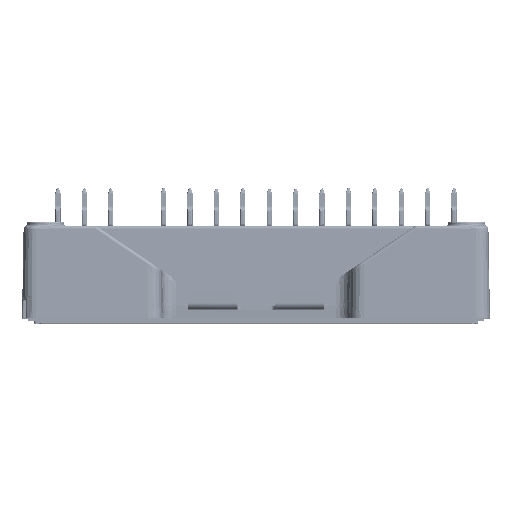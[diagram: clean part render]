
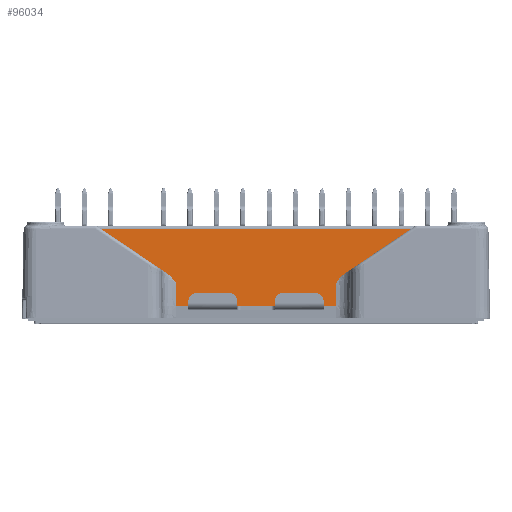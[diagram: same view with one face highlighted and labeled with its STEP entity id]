
A CAD part, top view. The second image highlights one B-rep face of the part: STEP entity #96034.
In plain terms, the highlighted planar face has unit normal (0, 0.018, 1).
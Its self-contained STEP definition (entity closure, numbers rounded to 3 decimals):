
#994 = PLANE ( 'NONE',  #140883 ) ;
#1545 = DIRECTION ( 'NONE',  ( -1., 0., 0. ) ) ;
#1884 = FACE_OUTER_BOUND ( 'NONE', #64743, .T. ) ;
#2725 = CARTESIAN_POINT ( 'NONE',  ( 18.767, 11.437, 20.311 ) ) ;
#5943 = DIRECTION ( 'NONE',  ( 1., 0., 0. ) ) ;
#9080 = VERTEX_POINT ( 'NONE', #174019 ) ;
#10086 = LINE ( 'NONE', #113213, #173116 ) ;
#10659 = CARTESIAN_POINT ( 'NONE',  ( -10.679, 5.981, 20.407 ) ) ;
#11577 = CARTESIAN_POINT ( 'NONE',  ( -10.119, 5.443, 20.416 ) ) ;
#12487 = CARTESIAN_POINT ( 'NONE',  ( -10.591, 5.922, 20.408 ) ) ;
#12800 = CARTESIAN_POINT ( 'NONE',  ( 10.092, 5.41, 20.417 ) ) ;
#17238 = EDGE_CURVE ( 'NONE', #175220, #72475, #176835, .T. ) ;
#18063 = ORIENTED_EDGE ( 'NONE', *, *, #28142, .T. ) ;
#19556 = ORIENTED_EDGE ( 'NONE', *, *, #17238, .T. ) ;
#21705 = EDGE_CURVE ( 'NONE', #54640, #150994, #95272, .T. ) ;
#22355 = DIRECTION ( 'NONE',  ( 0.829, 0.559, -0.01 ) ) ;
#22367 = LINE ( 'NONE', #121904, #77764 ) ;
#23412 = VECTOR ( 'NONE', #27028, 1000. ) ;
#23548 = CARTESIAN_POINT ( 'NONE',  ( -10.454, 5.81, 20.41 ) ) ;
#24805 = CARTESIAN_POINT ( 'NONE',  ( 9.75, 4.954, 20.425 ) ) ;
#25149 = CARTESIAN_POINT ( 'NONE',  ( -9.65, 2.05, 20.475 ) ) ;
#25188 = ORIENTED_EDGE ( 'NONE', *, *, #21705, .T. ) ;
#25710 = CARTESIAN_POINT ( 'NONE',  ( 10.01, 5.306, 20.418 ) ) ;
#26349 = CARTESIAN_POINT ( 'NONE',  ( 9.65, 4.812, 20.427 ) ) ;
#27028 = DIRECTION ( 'NONE',  ( 0.829, -0.559, 0.01 ) ) ;
#27545 = DIRECTION ( 'NONE',  ( 1., 0., 0. ) ) ;
#28142 = EDGE_CURVE ( 'NONE', #167251, #39715, #168608, .T. ) ;
#29545 = EDGE_CURVE ( 'NONE', #155772, #54640, #54137, .T. ) ;
#32499 = CARTESIAN_POINT ( 'NONE',  ( 10.679, 5.981, 20.407 ) ) ;
#38555 = EDGE_CURVE ( 'NONE', #39715, #67747, #22367, .T. ) ;
#38592 = CARTESIAN_POINT ( 'NONE',  ( 10.114, 5.437, 20.416 ) ) ;
#39715 = VERTEX_POINT ( 'NONE', #25149 ) ;
#41493 = ORIENTED_EDGE ( 'NONE', *, *, #38555, .T. ) ;
#42233 = CARTESIAN_POINT ( 'NONE',  ( 10.315, 5.682, 20.412 ) ) ;
#42983 = CARTESIAN_POINT ( 'NONE',  ( -11.35, 11.437, 20.311 ) ) ;
#45174 = EDGE_CURVE ( 'NONE', #67747, #95175, #10086, .T. ) ;
#46941 = CARTESIAN_POINT ( 'NONE',  ( 9.65, 499000., -8689.566 ) ) ;
#46960 = VECTOR ( 'NONE', #5943, 1000. ) ;
#47093 = ORIENTED_EDGE ( 'NONE', *, *, #29545, .T. ) ;
#53028 = CARTESIAN_POINT ( 'NONE',  ( -10.007, 5.307, 20.418 ) ) ;
#54137 = LINE ( 'NONE', #42983, #54947 ) ;
#54285 = CARTESIAN_POINT ( 'NONE',  ( 9.884, 5.139, 20.421 ) ) ;
#54640 = VERTEX_POINT ( 'NONE', #75867 ) ;
#54947 = VECTOR ( 'NONE', #1545, 1000. ) ;
#55177 = CARTESIAN_POINT ( 'NONE',  ( 10.113, 5.437, 20.416 ) ) ;
#57181 = CARTESIAN_POINT ( 'NONE',  ( -11.35, 0.63, 20.5 ) ) ;
#58090 = DIRECTION ( 'NONE',  ( 0., 0.017, 1. ) ) ;
#60912 = EDGE_CURVE ( 'NONE', #95175, #9080, #62166, .T. ) ;
#62166 = LINE ( 'NONE', #173724, #46960 ) ;
#63852 = LINE ( 'NONE', #32499, #150070 ) ;
#64743 = EDGE_LOOP ( 'NONE', ( #25188, #179910, #18063, #41493, #158875, #72256, #82781, #19556, #118103, #47093 ) ) ;
#67747 = VERTEX_POINT ( 'NONE', #156956 ) ;
#68708 = CARTESIAN_POINT ( 'NONE',  ( -9.65, 4.812, 20.427 ) ) ;
#69028 = CARTESIAN_POINT ( 'NONE',  ( 10.679, 5.981, 20.407 ) ) ;
#72256 = ORIENTED_EDGE ( 'NONE', *, *, #60912, .T. ) ;
#72475 = VERTEX_POINT ( 'NONE', #142568 ) ;
#75867 = CARTESIAN_POINT ( 'NONE',  ( -18.767, 11.437, 20.311 ) ) ;
#77764 = VECTOR ( 'NONE', #180907, 1000. ) ;
#79707 = CARTESIAN_POINT ( 'NONE',  ( -9.65, 4.812, 20.427 ) ) ;
#79793 = CARTESIAN_POINT ( 'NONE',  ( -10.203, 5.543, 20.414 ) ) ;
#82781 = ORIENTED_EDGE ( 'NONE', *, *, #139159, .T. ) ;
#85562 = CARTESIAN_POINT ( 'NONE',  ( -9.65, 499000., -8689.566 ) ) ;
#95175 = VERTEX_POINT ( 'NONE', #137928 ) ;
#95272 = LINE ( 'NONE', #170762, #23412 ) ;
#96034 = ADVANCED_FACE ( 'NONE', ( #1884 ), #994, .T. ) ;
#97555 = CARTESIAN_POINT ( 'NONE',  ( 10.11, 5.432, 20.416 ) ) ;
#103176 = DIRECTION ( 'NONE',  ( 0., 1., -0.017 ) ) ;
#109250 = CARTESIAN_POINT ( 'NONE',  ( -10.288, 5.639, 20.413 ) ) ;
#113213 = CARTESIAN_POINT ( 'NONE',  ( -11.35, 2.05, 20.475 ) ) ;
#114305 = DIRECTION ( 'NONE',  ( 0., -1., 0.017 ) ) ;
#116141 = EDGE_CURVE ( 'NONE', #150994, #167251, #168043, .T. ) ;
#117030 = LINE ( 'NONE', #46941, #160199 ) ;
#118103 = ORIENTED_EDGE ( 'NONE', *, *, #147019, .T. ) ;
#121904 = CARTESIAN_POINT ( 'NONE',  ( -11.35, 2.05, 20.475 ) ) ;
#124349 = CARTESIAN_POINT ( 'NONE',  ( 10.105, 5.426, 20.416 ) ) ;
#135102 = CARTESIAN_POINT ( 'NONE',  ( -10.16, 5.493, 20.415 ) ) ;
#136038 = CARTESIAN_POINT ( 'NONE',  ( -10.129, 5.456, 20.416 ) ) ;
#137098 = VECTOR ( 'NONE', #155659, 1000. ) ;
#137928 = CARTESIAN_POINT ( 'NONE',  ( 8.2, 2.05, 20.475 ) ) ;
#139159 = EDGE_CURVE ( 'NONE', #9080, #175220, #117030, .T. ) ;
#140883 = AXIS2_PLACEMENT_3D ( 'NONE', #57181, #58090, #114305 ) ;
#142568 = CARTESIAN_POINT ( 'NONE',  ( 10.679, 5.981, 20.407 ) ) ;
#147019 = EDGE_CURVE ( 'NONE', #72475, #155772, #63852, .T. ) ;
#150070 = VECTOR ( 'NONE', #22355, 1000. ) ;
#150994 = VERTEX_POINT ( 'NONE', #164583 ) ;
#152009 = CARTESIAN_POINT ( 'NONE',  ( 9.65, 4.812, 20.427 ) ) ;
#153843 = CARTESIAN_POINT ( 'NONE',  ( 10.502, 5.862, 20.409 ) ) ;
#155659 = DIRECTION ( 'NONE',  ( 0., -1., 0.017 ) ) ;
#155772 = VERTEX_POINT ( 'NONE', #2725 ) ;
#156956 = CARTESIAN_POINT ( 'NONE',  ( -8.2, 2.05, 20.475 ) ) ;
#158875 = ORIENTED_EDGE ( 'NONE', *, *, #45174, .T. ) ;
#160199 = VECTOR ( 'NONE', #103176, 1000. ) ;
#164583 = CARTESIAN_POINT ( 'NONE',  ( -10.679, 5.981, 20.407 ) ) ;
#165530 = CARTESIAN_POINT ( 'NONE',  ( -9.851, 5.097, 20.422 ) ) ;
#166441 = CARTESIAN_POINT ( 'NONE',  ( -10.123, 5.449, 20.416 ) ) ;
#167251 = VERTEX_POINT ( 'NONE', #79707 ) ;
#168043 = B_SPLINE_CURVE_WITH_KNOTS ( 'NONE', 3,
 ( #10659, #12487, #23548, #109250, #79793, #135102, #179346, #136038, #166441, #11577, #53028, #165530, #68708 ),
 .UNSPECIFIED., .F., .F.,
 ( 4, 1, 1, 1, 1, 1, 2, 2, 4 ),
 ( 0., 0.25, 0.375, 0.438, 0.469, 0.484, 0.492, 0.5, 1. ),
 .UNSPECIFIED. ) ;
#168608 = LINE ( 'NONE', #85562, #137098 ) ;
#170762 = CARTESIAN_POINT ( 'NONE',  ( -18.767, 11.437, 20.311 ) ) ;
#173116 = VECTOR ( 'NONE', #27545, 1000. ) ;
#173724 = CARTESIAN_POINT ( 'NONE',  ( -11.35, 2.05, 20.475 ) ) ;
#174019 = CARTESIAN_POINT ( 'NONE',  ( 9.65, 2.05, 20.475 ) ) ;
#175220 = VERTEX_POINT ( 'NONE', #26349 ) ;
#176835 = B_SPLINE_CURVE_WITH_KNOTS ( 'NONE', 3,
 ( #152009, #24805, #54285, #25710, #181497, #12800, #124349, #97555, #55177, #38592, #42233, #153843, #69028 ),
 .UNSPECIFIED., .F., .F.,
 ( 4, 1, 1, 1, 1, 1, 2, 2, 4 ),
 ( 0., 0.25, 0.375, 0.437, 0.469, 0.484, 0.492, 0.5, 1. ),
 .UNSPECIFIED. ) ;
#179346 = CARTESIAN_POINT ( 'NONE',  ( -10.139, 5.467, 20.416 ) ) ;
#179910 = ORIENTED_EDGE ( 'NONE', *, *, #116141, .T. ) ;
#180907 = DIRECTION ( 'NONE',  ( 1., 0., 0. ) ) ;
#181497 = CARTESIAN_POINT ( 'NONE',  ( 10.066, 5.378, 20.417 ) ) ;
